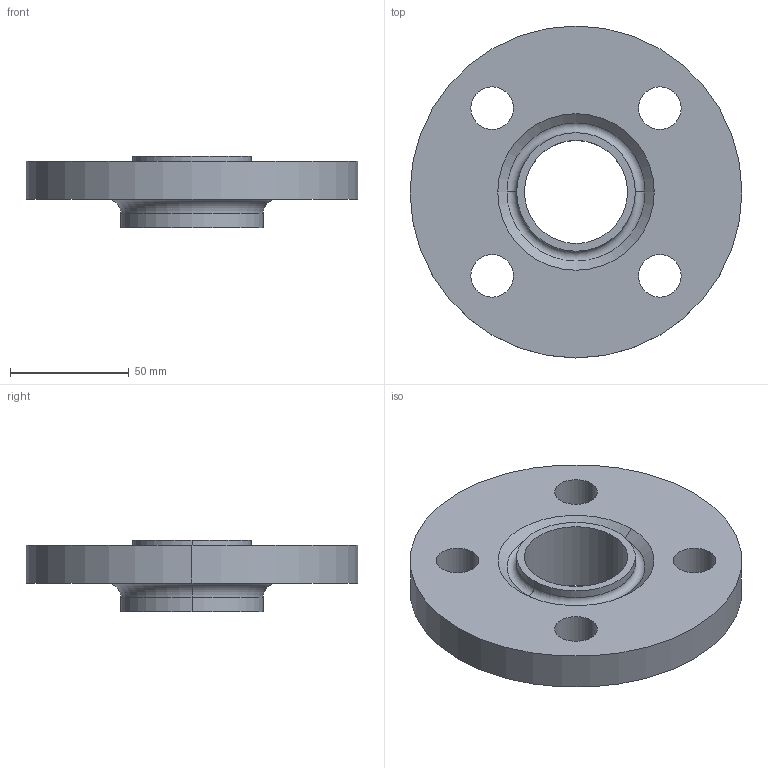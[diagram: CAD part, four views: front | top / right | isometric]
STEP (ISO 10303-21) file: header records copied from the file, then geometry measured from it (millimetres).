
FILE_DESCRIPTION (( 'STEP AP214' ), '1' );
FILE_NAME ('PN40 DN32 Type 12 - Type H Face.STEP', '2018-12-29T23:56:03', ( '' ), ( '' ), 'SwSTEP 2.0', 'SolidWorks 2019', '' );
FILE_SCHEMA (( 'AUTOMOTIVE_DESIGN' ));
Length unit declared in the file: millimetre
Products named in the file (1): PN40 DN32 Type 12 - Type H Face
Bounding box: 140 x 140 x 30 mm (x, y, z)
Volume: 221013.6 mm3; surface area: 43380.7 mm2
Topology: 1 solids, 1 shells, 26 faces, 60 edges, 38 vertices
Faces by surface type: cylinder 16, torus 4, plane 4, cone 2
Entity records: 812 total; most frequent: DIRECTION 156, CARTESIAN_POINT 125, ORIENTED_EDGE 120, AXIS2_PLACEMENT_3D 69, EDGE_CURVE 60, CIRCLE 42, VERTEX_POINT 38, EDGE_LOOP 38
